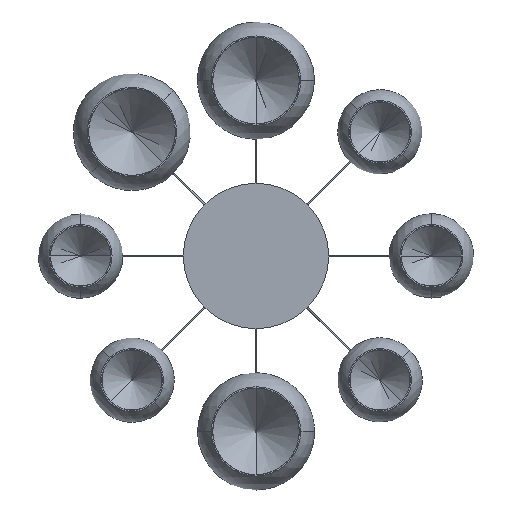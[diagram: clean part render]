
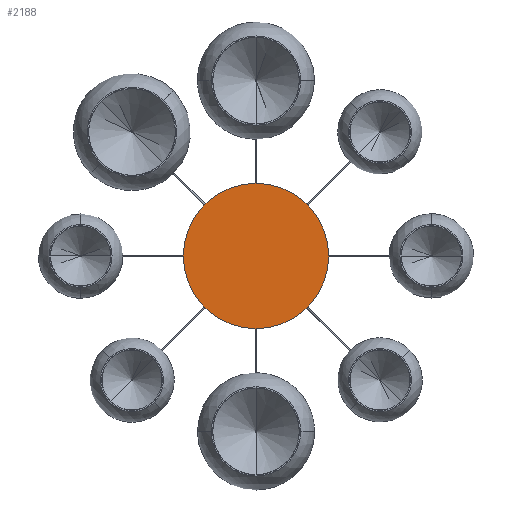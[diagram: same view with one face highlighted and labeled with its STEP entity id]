
A CAD part, front view. The second image highlights one B-rep face of the part: STEP entity #2188.
In plain terms, the highlighted planar face has unit normal (0, -1, 0).
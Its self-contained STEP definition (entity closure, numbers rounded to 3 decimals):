
#267 = ORIENTED_EDGE ( 'NONE', *, *, #4386, .F. ) ;
#394 = DIRECTION ( 'NONE',  ( 0., 0., 1. ) ) ;
#695 = DIRECTION ( 'NONE',  ( 0., 0., 1. ) ) ;
#945 = FACE_OUTER_BOUND ( 'NONE', #3353, .T. ) ;
#1122 = CARTESIAN_POINT ( 'NONE',  ( 0., 0., 0. ) ) ;
#1306 = DIRECTION ( 'NONE',  ( 0., 1., 0. ) ) ;
#1373 = ORIENTED_EDGE ( 'NONE', *, *, #7559, .F. ) ;
#1548 = DIRECTION ( 'NONE',  ( 0., 1., 0. ) ) ;
#2188 = ADVANCED_FACE ( 'NONE', ( #945 ), #7320, .F. ) ;
#2211 = DIRECTION ( 'NONE',  ( 0., 1., 0. ) ) ;
#2801 = CIRCLE ( 'NONE', #7078, 155. ) ;
#3353 = EDGE_LOOP ( 'NONE', ( #1373, #267 ) ) ;
#3687 = CIRCLE ( 'NONE', #7486, 155. ) ;
#3806 = CARTESIAN_POINT ( 'NONE',  ( 0., 0., 0. ) ) ;
#4386 = EDGE_CURVE ( 'NONE', #6879, #6781, #3687, .T. ) ;
#4909 = CARTESIAN_POINT ( 'NONE',  ( 0., 0., -155. ) ) ;
#5134 = AXIS2_PLACEMENT_3D ( 'NONE', #5562, #1548, #394 ) ;
#5390 = CARTESIAN_POINT ( 'NONE',  ( 0., 0., 155. ) ) ;
#5562 = CARTESIAN_POINT ( 'NONE',  ( 0., 0., 0. ) ) ;
#5867 = DIRECTION ( 'NONE',  ( 0., 0., 1. ) ) ;
#6781 = VERTEX_POINT ( 'NONE', #4909 ) ;
#6879 = VERTEX_POINT ( 'NONE', #5390 ) ;
#7078 = AXIS2_PLACEMENT_3D ( 'NONE', #1122, #2211, #5867 ) ;
#7320 = PLANE ( 'NONE',  #5134 ) ;
#7486 = AXIS2_PLACEMENT_3D ( 'NONE', #3806, #1306, #695 ) ;
#7559 = EDGE_CURVE ( 'NONE', #6781, #6879, #2801, .T. ) ;
